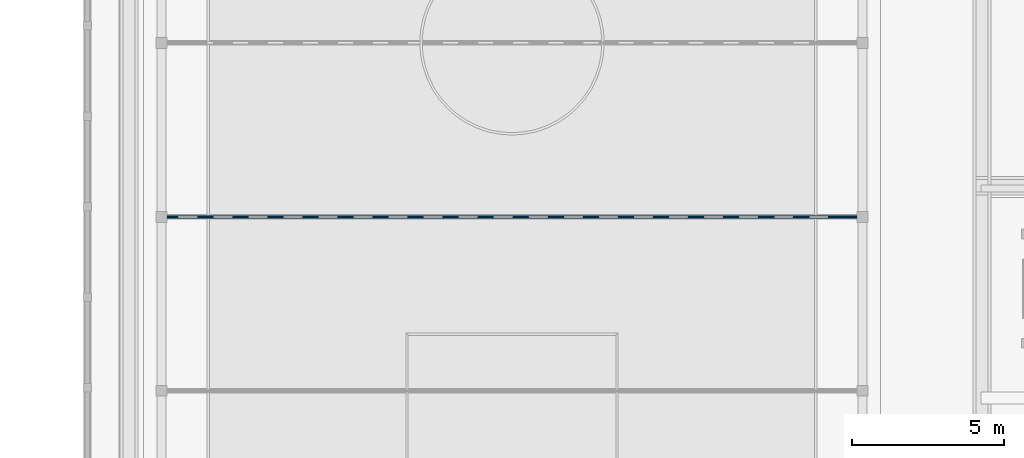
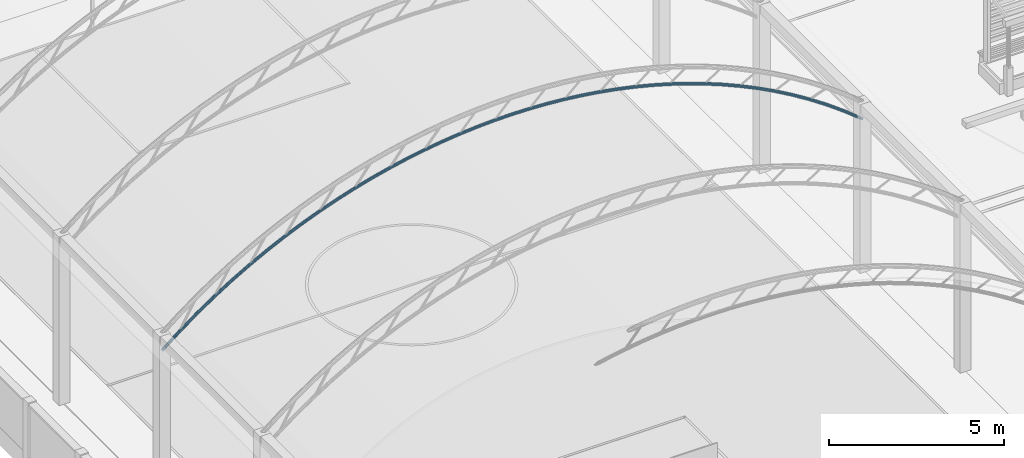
# One storey, part 24 of 177: 1 beam.
"""IFC4 building model written with IfcOpenShell, lengths in metres."""

from ifc_helpers import new_model, si_unit, origin, origin_with_axes, place, context, subcontext, project, spatial, triangles, element, save


model = new_model("IFC4")

# Units and contexts
model_context = context("Model", 3, precision=1e-05, world=origin_with_axes())
body_context = subcontext(model_context, "Body", "Model", "MODEL_VIEW")
ifc_project = project(units=[si_unit("LENGTHUNIT", "METRE"), si_unit("AREAUNIT", "SQUARE_METRE"), si_unit("VOLUMEUNIT", "CUBIC_METRE"), si_unit("PLANEANGLEUNIT", "RADIAN")], contexts=[model_context])

# Site, building, storey
site_placement = place(None, origin_with_axes())
site = spatial("IfcSite", under=ifc_project, at=site_placement, Name="Predio Los Mangos - Morales, San Martín", CompositionType="ELEMENT")
building_placement = place(site_placement, origin())
building = spatial("IfcBuilding", under=site, at=building_placement, Name="Hogar de Refugio Temporal", CompositionType="ELEMENT")
storey_placement = place(building_placement, origin())
storey = spatial("IfcBuildingStorey", under=building, at=storey_placement, Name="NIVEL 1 (NPT +0.00)", CompositionType="ELEMENT", Elevation=0.0)

# Beam
beam_placement = place(storey_placement, origin())
element("IfcBeam", 1, at=beam_placement, inside=storey, Name="arco", ObjectType="Viga", PredefinedType="BEAM", context=body_context, shape_type="Tessellation", body=[
    triangles([(3.4843, 104.11, 5.3695), (3.4729, 104.0917, 5.3838), (3.4687, 104.0667, 5.389), (3.4729, 104.0417, 5.3838), (3.4843, 104.0234, 5.3695), (3.5, 104.0167, 5.35), (3.5157, 104.0234, 5.3305), (3.5271, 104.0417, 5.3162), (3.5313, 104.0667, 5.311), (3.5271, 104.0917, 5.3162), (3.5157, 104.11, 5.3305), (3.5, 104.1167, 5.35), (4.0622, 104.11, 5.8339), (4.0511, 104.0917, 5.8484), (4.047, 104.0667, 5.8537), (4.0511, 104.0417, 5.8484), (4.0622, 104.0234, 5.8339), (4.0775, 104.0167, 5.8141), (4.0928, 104.0234, 5.7943), (4.1039, 104.0417, 5.7798), (4.108, 104.0667, 5.7745), (4.1039, 104.0917, 5.7798), (4.0928, 104.11, 5.7943), (4.0775, 104.1167, 5.8141), (4.6405, 104.11, 6.2612), (4.63, 104.0917, 6.2761), (4.6261, 104.0667, 6.2816), (4.63, 104.0417, 6.2761), (4.6405, 104.0234, 6.2612), (4.655, 104.0167, 6.2408), (4.6695, 104.0234, 6.2204), (4.68, 104.0417, 6.2055), (4.6839, 104.0667, 6.2), (4.68, 104.0917, 6.2055), (4.6695, 104.11, 6.2204), (4.655, 104.1167, 6.2408), (5.2188, 104.11, 6.6543), (5.2088, 104.0917, 6.6696), (5.2052, 104.0667, 6.6752), (5.2088, 104.0417, 6.6696), (5.2188, 104.0234, 6.6543), (5.2325, 104.0167, 6.6333), (5.2462, 104.0234, 6.6124), (5.2562, 104.0417, 6.5971), (5.2598, 104.0667, 6.5915), (5.2562, 104.0917, 6.5971), (5.2462, 104.11, 6.6124), (5.2325, 104.1167, 6.6333), (5.7971, 104.11, 7.0157), (5.7877, 104.0917, 7.0314), (5.7843, 104.0667, 7.0372), (5.7877, 104.0417, 7.0314), (5.7971, 104.0234, 7.0157), (5.81, 104.0167, 6.9943), (5.8229, 104.0234, 6.9729), (5.8323, 104.0417, 6.9572), (5.8357, 104.0667, 6.9514), (5.8323, 104.0917, 6.9572), (5.8229, 104.11, 6.9729), (5.81, 104.1167, 6.9943), (6.3755, 104.11, 7.3478), (6.3666, 104.0917, 7.3638), (6.3634, 104.0667, 7.3697), (6.3666, 104.0417, 7.3638), (6.3755, 104.0234, 7.3478), (6.3875, 104.0167, 7.3259), (6.3995, 104.0234, 7.304), (6.4084, 104.0417, 7.2879), (6.4116, 104.0667, 7.282), (6.4084, 104.0917, 7.2879), (6.3995, 104.11, 7.304), (6.3875, 104.1167, 7.3259), (6.9538, 104.11, 7.6522), (6.9455, 104.0917, 7.6685), (6.9425, 104.0667, 7.6745), (6.9455, 104.0417, 7.6685), (6.9538, 104.0234, 7.6522), (6.965, 104.0167, 7.6298), (6.9762, 104.0234, 7.6075), (6.9845, 104.0417, 7.5912), (6.9875, 104.0667, 7.5852), (6.9845, 104.0917, 7.5912), (6.9762, 104.11, 7.6075), (6.965, 104.1167, 7.6298), (7.5321, 104.11, 7.9305), (7.5244, 104.0917, 7.9471), (7.5216, 104.0667, 7.9532), (7.5244, 104.0417, 7.9471), (7.5321, 104.0234, 7.9305), (7.5425, 104.0167, 7.9077), (7.5529, 104.0234, 7.885), (7.5606, 104.0417, 7.8684), (7.5634, 104.0667, 7.8623), (7.5606, 104.0917, 7.8684), (7.5529, 104.11, 7.885), (7.5425, 104.1167, 7.9077), (8.1104, 104.11, 8.184), (8.1033, 104.0917, 8.2009), (8.1007, 104.0667, 8.2071), (8.1033, 104.0417, 8.2009), (8.1104, 104.0234, 8.184), (8.12, 104.0167, 8.1609), (8.1296, 104.0234, 8.1379), (8.1367, 104.0417, 8.121), (8.1393, 104.0667, 8.1148), (8.1367, 104.0917, 8.121), (8.1296, 104.11, 8.1379), (8.12, 104.1167, 8.1609), (8.6887, 104.11, 8.4139), (8.6822, 104.0917, 8.431), (8.6798, 104.0667, 8.4373), (8.6822, 104.0417, 8.431), (8.6887, 104.0234, 8.4139), (8.6975, 104.0167, 8.3905), (8.7063, 104.0234, 8.3671), (8.7128, 104.0417, 8.35), (8.7152, 104.0667, 8.3437), (8.7128, 104.0917, 8.35), (8.7063, 104.11, 8.3671), (8.6975, 104.1167, 8.3905), (9.267, 104.11, 8.6211), (9.2611, 104.0917, 8.6384), (9.2589, 104.0667, 8.6447), (9.2611, 104.0417, 8.6384), (9.267, 104.0234, 8.6211), (9.275, 104.0167, 8.5974), (9.283, 104.0234, 8.5737), (9.2889, 104.0417, 8.5564), (9.2911, 104.0667, 8.55), (9.2889, 104.0917, 8.5564), (9.283, 104.11, 8.5737), (9.275, 104.1167, 8.5974), (9.8453, 104.11, 8.8064), (9.84, 104.0917, 8.8239), (9.838, 104.0667, 8.8303), (9.84, 104.0417, 8.8239), (9.8453, 104.0234, 8.8064), (9.8525, 104.0167, 8.7824), (9.8597, 104.0234, 8.7585), (9.865, 104.0417, 8.741), (9.867, 104.0667, 8.7346), (9.865, 104.0917, 8.741), (9.8597, 104.11, 8.7585), (9.8525, 104.1167, 8.7824), (10.4236, 104.11, 8.9705), (10.4189, 104.0917, 8.9882), (10.4172, 104.0667, 8.9947), (10.4189, 104.0417, 8.9882), (10.4236, 104.0234, 8.9705), (10.43, 104.0167, 8.9463), (10.4364, 104.0234, 8.9222), (10.4411, 104.0417, 8.9045), (10.4429, 104.0667, 8.898), (10.4411, 104.0917, 8.9045), (10.4364, 104.11, 8.9222), (10.43, 104.1167, 8.9463), (11.0019, 104.11, 9.1141), (10.9978, 104.0917, 9.1319), (10.9963, 104.0667, 9.1384), (10.9978, 104.0417, 9.1319), (11.0019, 104.0234, 9.1141), (11.0075, 104.0167, 9.0897), (11.0131, 104.0234, 9.0653), (11.0172, 104.0417, 9.0475), (11.0187, 104.0667, 9.041), (11.0172, 104.0917, 9.0475), (11.0131, 104.11, 9.0653), (11.0075, 104.1167, 9.0897), (11.5802, 104.11, 9.2375), (11.5767, 104.0917, 9.2555), (11.5754, 104.0667, 9.2621), (11.5767, 104.0417, 9.2555), (11.5802, 104.0234, 9.2375), (11.585, 104.0167, 9.213), (11.5898, 104.0234, 9.1885), (11.5933, 104.0417, 9.1705), (11.5946, 104.0667, 9.1639), (11.5933, 104.0917, 9.1705), (11.5898, 104.11, 9.1885), (11.585, 104.1167, 9.213), (12.1585, 104.11, 9.3413), (12.1555, 104.0917, 9.3594), (12.1545, 104.0667, 9.366), (12.1555, 104.0417, 9.3594), (12.1585, 104.0234, 9.3413), (12.1625, 104.0167, 9.3166), (12.1665, 104.0234, 9.292), (12.1695, 104.0417, 9.2739), (12.1705, 104.0667, 9.2673), (12.1695, 104.0917, 9.2739), (12.1665, 104.11, 9.292), (12.1625, 104.1167, 9.3166), (12.7368, 104.11, 9.4258), (12.7344, 104.0917, 9.4439), (12.7336, 104.0667, 9.4506), (12.7344, 104.0417, 9.4439), (12.7368, 104.0234, 9.4258), (12.74, 104.0167, 9.401), (12.7432, 104.0234, 9.3762), (12.7456, 104.0417, 9.3581), (12.7464, 104.0667, 9.3514), (12.7456, 104.0917, 9.3581), (12.7432, 104.11, 9.3762), (12.74, 104.1167, 9.401), (13.3151, 104.11, 9.4912), (13.3133, 104.0917, 9.5094), (13.3127, 104.0667, 9.5161), (13.3133, 104.0417, 9.5094), (13.3151, 104.0234, 9.4912), (13.3175, 104.0167, 9.4663), (13.3199, 104.0234, 9.4415), (13.3217, 104.0417, 9.4232), (13.3223, 104.0667, 9.4166), (13.3217, 104.0917, 9.4232), (13.3199, 104.11, 9.4415), (13.3175, 104.1167, 9.4663), (13.8934, 104.11, 9.5378), (13.8922, 104.0917, 9.5561), (13.8918, 104.0667, 9.5628), (13.8922, 104.0417, 9.5561), (13.8934, 104.0234, 9.5378), (13.895, 104.0167, 9.5129), (13.8966, 104.0234, 9.4879), (13.8978, 104.0417, 9.4697), (13.8982, 104.0667, 9.463), (13.8978, 104.0917, 9.4697), (13.8966, 104.11, 9.4879), (13.895, 104.1167, 9.5129), (14.4717, 104.11, 9.5657), (14.4711, 104.0917, 9.584), (14.4709, 104.0667, 9.5907), (14.4711, 104.0417, 9.584), (14.4717, 104.0234, 9.5657), (14.4725, 104.0167, 9.5407), (14.4733, 104.0234, 9.5157), (14.4739, 104.0417, 9.4974), (14.4741, 104.0667, 9.4907), (14.4739, 104.0917, 9.4974), (14.4733, 104.11, 9.5157), (14.4725, 104.1167, 9.5407), (15.05, 104.11, 9.575), (15.05, 104.0917, 9.5933), (15.05, 104.0667, 9.6), (15.05, 104.0417, 9.5933), (15.05, 104.0234, 9.575), (15.05, 104.0167, 9.55), (15.05, 104.0234, 9.525), (15.05, 104.0417, 9.5067), (15.05, 104.0667, 9.5), (15.05, 104.0917, 9.5067), (15.05, 104.11, 9.525), (15.05, 104.1167, 9.55), (15.6283, 104.11, 9.5657), (15.6289, 104.0917, 9.584), (15.6291, 104.0667, 9.5907), (15.6289, 104.0417, 9.584), (15.6283, 104.0234, 9.5657), (15.6275, 104.0167, 9.5407), (15.6267, 104.0234, 9.5157), (15.6261, 104.0417, 9.4974), (15.6259, 104.0667, 9.4907), (15.6261, 104.0917, 9.4974), (15.6267, 104.11, 9.5157), (15.6275, 104.1167, 9.5407), (16.2066, 104.11, 9.5378), (16.2078, 104.0917, 9.5561), (16.2082, 104.0667, 9.5628), (16.2078, 104.0417, 9.5561), (16.2066, 104.0234, 9.5378), (16.205, 104.0167, 9.5129), (16.2034, 104.0234, 9.4879), (16.2022, 104.0417, 9.4697), (16.2018, 104.0667, 9.463), (16.2022, 104.0917, 9.4697), (16.2034, 104.11, 9.4879), (16.205, 104.1167, 9.5129), (16.7849, 104.11, 9.4912), (16.7867, 104.0917, 9.5094), (16.7873, 104.0667, 9.5161), (16.7867, 104.0417, 9.5094), (16.7849, 104.0234, 9.4912), (16.7825, 104.0167, 9.4663), (16.7801, 104.0234, 9.4415), (16.7783, 104.0417, 9.4232), (16.7777, 104.0667, 9.4166), (16.7783, 104.0917, 9.4232), (16.7801, 104.11, 9.4415), (16.7825, 104.1167, 9.4663), (17.3632, 104.11, 9.4258), (17.3656, 104.0917, 9.4439), (17.3664, 104.0667, 9.4506), (17.3656, 104.0417, 9.4439), (17.3632, 104.0234, 9.4258), (17.36, 104.0167, 9.401), (17.3568, 104.0234, 9.3762), (17.3544, 104.0417, 9.3581), (17.3536, 104.0667, 9.3514), (17.3544, 104.0917, 9.3581), (17.3568, 104.11, 9.3762), (17.36, 104.1167, 9.401), (17.9415, 104.11, 9.3413), (17.9445, 104.0917, 9.3594), (17.9455, 104.0667, 9.366), (17.9445, 104.0417, 9.3594), (17.9415, 104.0234, 9.3413), (17.9375, 104.0167, 9.3166), (17.9335, 104.0234, 9.292), (17.9305, 104.0417, 9.2739), (17.9295, 104.0667, 9.2673), (17.9305, 104.0917, 9.2739), (17.9335, 104.11, 9.292), (17.9375, 104.1167, 9.3166), (18.5198, 104.11, 9.2375), (18.5233, 104.0917, 9.2555), (18.5246, 104.0667, 9.2621), (18.5233, 104.0417, 9.2555), (18.5198, 104.0234, 9.2375), (18.515, 104.0167, 9.213), (18.5102, 104.0234, 9.1885), (18.5067, 104.0417, 9.1705), (18.5054, 104.0667, 9.1639), (18.5067, 104.0917, 9.1705), (18.5102, 104.11, 9.1885), (18.515, 104.1167, 9.213), (19.0981, 104.11, 9.1141), (19.1022, 104.0917, 9.1319), (19.1037, 104.0667, 9.1384), (19.1022, 104.0417, 9.1319), (19.0981, 104.0234, 9.1141), (19.0925, 104.0167, 9.0897), (19.0869, 104.0234, 9.0653), (19.0828, 104.0417, 9.0475), (19.0813, 104.0667, 9.041), (19.0828, 104.0917, 9.0475), (19.0869, 104.11, 9.0653), (19.0925, 104.1167, 9.0897), (19.6764, 104.11, 8.9705), (19.6811, 104.0917, 8.9882), (19.6828, 104.0667, 8.9947), (19.6811, 104.0417, 8.9882), (19.6764, 104.0234, 8.9705), (19.67, 104.0167, 8.9463), (19.6636, 104.0234, 8.9222), (19.6589, 104.0417, 8.9045), (19.6572, 104.0667, 8.898), (19.6589, 104.0917, 8.9045), (19.6636, 104.11, 8.9222), (19.67, 104.1167, 8.9463), (20.2547, 104.11, 8.8064), (20.26, 104.0917, 8.8239), (20.262, 104.0667, 8.8303), (20.26, 104.0417, 8.8239), (20.2547, 104.0234, 8.8064), (20.2475, 104.0167, 8.7824), (20.2403, 104.0234, 8.7585), (20.235, 104.0417, 8.741), (20.233, 104.0667, 8.7346), (20.235, 104.0917, 8.741), (20.2403, 104.11, 8.7585), (20.2475, 104.1167, 8.7824), (20.833, 104.11, 8.6211), (20.8389, 104.0917, 8.6384), (20.8411, 104.0667, 8.6447), (20.8389, 104.0417, 8.6384), (20.833, 104.0234, 8.6211), (20.825, 104.0167, 8.5974), (20.817, 104.0234, 8.5737), (20.8111, 104.0417, 8.5564), (20.8089, 104.0667, 8.55), (20.8111, 104.0917, 8.5564), (20.817, 104.11, 8.5737), (20.825, 104.1167, 8.5974), (21.4113, 104.11, 8.4139), (21.4178, 104.0917, 8.431), (21.4202, 104.0667, 8.4373), (21.4178, 104.0417, 8.431), (21.4113, 104.0234, 8.4139), (21.4025, 104.0167, 8.3905), (21.3937, 104.0234, 8.3671), (21.3872, 104.0417, 8.35), (21.3848, 104.0667, 8.3437), (21.3872, 104.0917, 8.35), (21.3937, 104.11, 8.3671), (21.4025, 104.1167, 8.3905), (21.9896, 104.11, 8.184), (21.9967, 104.0917, 8.2009), (21.9993, 104.0667, 8.2071), (21.9967, 104.0417, 8.2009), (21.9896, 104.0234, 8.184), (21.98, 104.0167, 8.1609), (21.9704, 104.0234, 8.1379), (21.9633, 104.0417, 8.121), (21.9607, 104.0667, 8.1148), (21.9633, 104.0917, 8.121), (21.9704, 104.11, 8.1379), (21.98, 104.1167, 8.1609), (22.5679, 104.11, 7.9305), (22.5756, 104.0917, 7.9471), (22.5784, 104.0667, 7.9532), (22.5756, 104.0417, 7.9471), (22.5679, 104.0234, 7.9305), (22.5575, 104.0167, 7.9077), (22.5471, 104.0234, 7.885), (22.5394, 104.0417, 7.8684), (22.5366, 104.0667, 7.8623), (22.5394, 104.0917, 7.8684), (22.5471, 104.11, 7.885), (22.5575, 104.1167, 7.9077), (23.1462, 104.11, 7.6522), (23.1545, 104.0917, 7.6685), (23.1575, 104.0667, 7.6745), (23.1545, 104.0417, 7.6685), (23.1462, 104.0234, 7.6522), (23.135, 104.0167, 7.6298), (23.1238, 104.0234, 7.6075), (23.1155, 104.0417, 7.5912), (23.1125, 104.0667, 7.5852), (23.1155, 104.0917, 7.5912), (23.1238, 104.11, 7.6075), (23.135, 104.1167, 7.6298), (23.7245, 104.11, 7.3478), (23.7334, 104.0917, 7.3638), (23.7366, 104.0667, 7.3697), (23.7334, 104.0417, 7.3638), (23.7245, 104.0234, 7.3478), (23.7125, 104.0167, 7.3259), (23.7005, 104.0234, 7.304), (23.6916, 104.0417, 7.2879), (23.6884, 104.0667, 7.282), (23.6916, 104.0917, 7.2879), (23.7005, 104.11, 7.304), (23.7125, 104.1167, 7.3259), (24.3029, 104.11, 7.0157), (24.3123, 104.0917, 7.0314), (24.3157, 104.0667, 7.0372), (24.3123, 104.0417, 7.0314), (24.3029, 104.0234, 7.0157), (24.29, 104.0167, 6.9943), (24.2771, 104.0234, 6.9729), (24.2677, 104.0417, 6.9572), (24.2643, 104.0667, 6.9514), (24.2677, 104.0917, 6.9572), (24.2771, 104.11, 6.9729), (24.29, 104.1167, 6.9943), (24.8812, 104.11, 6.6543), (24.8912, 104.0917, 6.6696), (24.8948, 104.0667, 6.6752), (24.8912, 104.0417, 6.6696), (24.8812, 104.0234, 6.6543), (24.8675, 104.0167, 6.6333), (24.8538, 104.0234, 6.6124), (24.8438, 104.0417, 6.5971), (24.8402, 104.0667, 6.5915), (24.8438, 104.0917, 6.5971), (24.8538, 104.11, 6.6124), (24.8675, 104.1167, 6.6333), (25.4595, 104.11, 6.2612), (25.47, 104.0917, 6.2761), (25.4739, 104.0667, 6.2816), (25.47, 104.0417, 6.2761), (25.4595, 104.0234, 6.2612), (25.445, 104.0167, 6.2408), (25.4305, 104.0234, 6.2204), (25.42, 104.0417, 6.2055), (25.4161, 104.0667, 6.2), (25.42, 104.0917, 6.2055), (25.4305, 104.11, 6.2204), (25.445, 104.1167, 6.2408), (26.0378, 104.11, 5.8339), (26.0489, 104.0917, 5.8484), (26.053, 104.0667, 5.8537), (26.0489, 104.0417, 5.8484), (26.0378, 104.0234, 5.8339), (26.0225, 104.0167, 5.8141), (26.0072, 104.0234, 5.7943), (25.9961, 104.0417, 5.7798), (25.992, 104.0667, 5.7745), (25.9961, 104.0917, 5.7798), (26.0072, 104.11, 5.7943), (26.0225, 104.1167, 5.8141), (26.6157, 104.11, 5.3695), (26.6271, 104.0917, 5.3838), (26.6313, 104.0667, 5.389), (26.6271, 104.0417, 5.3838), (26.6157, 104.0234, 5.3695), (26.6, 104.0167, 5.35), (26.5843, 104.0234, 5.3305), (26.5729, 104.0417, 5.3162), (26.5687, 104.0667, 5.311), (26.5729, 104.0917, 5.3162), (26.5843, 104.11, 5.3305), (26.6, 104.1167, 5.35)], [[1, 13, 24], [1, 24, 12], [2, 14, 13], [2, 13, 1], [3, 15, 14], [3, 14, 2], [4, 16, 15], [4, 15, 3], [5, 17, 16], [5, 16, 4], [6, 18, 17], [6, 17, 5], [7, 19, 18], [7, 18, 6], [8, 20, 19], [8, 19, 7], [9, 21, 20], [9, 20, 8], [10, 22, 21], [10, 21, 9], [11, 23, 22], [11, 22, 10], [12, 24, 23], [12, 23, 11], [13, 25, 36], [13, 36, 24], [14, 26, 25], [14, 25, 13], [15, 27, 26], [15, 26, 14], [16, 28, 27], [16, 27, 15], [17, 29, 28], [17, 28, 16], [18, 30, 29], [18, 29, 17], [19, 31, 30], [19, 30, 18], [20, 32, 31], [20, 31, 19], [21, 33, 32], [21, 32, 20], [22, 34, 33], [22, 33, 21], [23, 35, 34], [23, 34, 22], [24, 36, 35], [24, 35, 23], [25, 37, 48], [25, 48, 36], [26, 38, 37], [26, 37, 25], [27, 39, 38], [27, 38, 26], [28, 40, 39], [28, 39, 27], [29, 41, 40], [29, 40, 28], [30, 42, 41], [30, 41, 29], [31, 43, 42], [31, 42, 30], [32, 44, 43], [32, 43, 31], [33, 45, 44], [33, 44, 32], [34, 46, 45], [34, 45, 33], [35, 47, 46], [35, 46, 34], [36, 48, 47], [36, 47, 35], [37, 49, 60], [37, 60, 48], [38, 50, 49], [38, 49, 37], [39, 51, 50], [39, 50, 38], [40, 52, 51], [40, 51, 39], [41, 53, 52], [41, 52, 40], [42, 54, 53], [42, 53, 41], [43, 55, 54], [43, 54, 42], [44, 56, 55], [44, 55, 43], [45, 57, 56], [45, 56, 44], [46, 58, 57], [46, 57, 45], [47, 59, 58], [47, 58, 46], [48, 60, 59], [48, 59, 47], [49, 61, 72], [49, 72, 60], [50, 62, 61], [50, 61, 49], [51, 63, 62], [51, 62, 50], [52, 64, 63], [52, 63, 51], [53, 65, 64], [53, 64, 52], [54, 66, 65], [54, 65, 53], [55, 67, 66], [55, 66, 54], [56, 68, 67], [56, 67, 55], [57, 69, 68], [57, 68, 56], [58, 70, 69], [58, 69, 57], [59, 71, 70], [59, 70, 58], [60, 72, 71], [60, 71, 59], [61, 73, 84], [61, 84, 72], [62, 74, 73], [62, 73, 61], [63, 75, 74], [63, 74, 62], [64, 76, 75], [64, 75, 63], [65, 77, 76], [65, 76, 64], [66, 78, 77], [66, 77, 65], [67, 79, 78], [67, 78, 66], [68, 80, 79], [68, 79, 67], [69, 81, 80], [69, 80, 68], [70, 82, 81], [70, 81, 69], [71, 83, 82], [71, 82, 70], [72, 84, 83], [72, 83, 71], [73, 85, 96], [73, 96, 84], [74, 86, 85], [74, 85, 73], [75, 87, 86], [75, 86, 74], [76, 88, 87], [76, 87, 75], [77, 89, 88], [77, 88, 76], [78, 90, 89], [78, 89, 77], [79, 91, 90], [79, 90, 78], [80, 92, 91], [80, 91, 79], [81, 93, 92], [81, 92, 80], [82, 94, 93], [82, 93, 81], [83, 95, 94], [83, 94, 82], [84, 96, 95], [84, 95, 83], [85, 97, 108], [85, 108, 96], [86, 98, 97], [86, 97, 85], [87, 99, 98], [87, 98, 86], [88, 100, 99], [88, 99, 87], [89, 101, 100], [89, 100, 88], [90, 102, 101], [90, 101, 89], [91, 103, 102], [91, 102, 90], [92, 104, 103], [92, 103, 91], [93, 105, 104], [93, 104, 92], [94, 106, 105], [94, 105, 93], [95, 107, 106], [95, 106, 94], [96, 108, 107], [96, 107, 95], [97, 109, 120], [97, 120, 108], [98, 110, 109], [98, 109, 97], [99, 111, 110], [99, 110, 98], [100, 112, 111], [100, 111, 99], [101, 113, 112], [101, 112, 100], [102, 114, 113], [102, 113, 101], [103, 115, 114], [103, 114, 102], [104, 116, 115], [104, 115, 103], [105, 117, 116], [105, 116, 104], [106, 118, 117], [106, 117, 105], [107, 119, 118], [107, 118, 106], [108, 120, 119], [108, 119, 107], [109, 121, 132], [109, 132, 120], [110, 122, 121], [110, 121, 109], [111, 123, 122], [111, 122, 110], [112, 124, 123], [112, 123, 111], [113, 125, 124], [113, 124, 112], [114, 126, 125], [114, 125, 113], [115, 127, 126], [115, 126, 114], [116, 128, 127], [116, 127, 115], [117, 129, 128], [117, 128, 116], [118, 130, 129], [118, 129, 117], [119, 131, 130], [119, 130, 118], [120, 132, 131], [120, 131, 119], [121, 133, 144], [121, 144, 132], [122, 134, 133], [122, 133, 121], [123, 135, 134], [123, 134, 122], [124, 136, 135], [124, 135, 123], [125, 137, 136], [125, 136, 124], [126, 138, 137], [126, 137, 125], [127, 139, 138], [127, 138, 126], [128, 140, 139], [128, 139, 127], [129, 141, 140], [129, 140, 128], [130, 142, 141], [130, 141, 129], [131, 143, 142], [131, 142, 130], [132, 144, 143], [132, 143, 131], [133, 145, 156], [133, 156, 144], [134, 146, 145], [134, 145, 133], [135, 147, 146], [135, 146, 134], [136, 148, 147], [136, 147, 135], [137, 149, 148], [137, 148, 136], [138, 150, 149], [138, 149, 137], [139, 151, 150], [139, 150, 138], [140, 152, 151], [140, 151, 139], [141, 153, 152], [141, 152, 140], [142, 154, 153], [142, 153, 141], [143, 155, 154], [143, 154, 142], [144, 156, 155], [144, 155, 143], [145, 157, 168], [145, 168, 156], [146, 158, 157], [146, 157, 145], [147, 159, 158], [147, 158, 146], [148, 160, 159], [148, 159, 147], [149, 161, 160], [149, 160, 148], [150, 162, 161], [150, 161, 149], [151, 163, 162], [151, 162, 150], [152, 164, 163], [152, 163, 151], [153, 165, 164], [153, 164, 152], [154, 166, 165], [154, 165, 153], [155, 167, 166], [155, 166, 154], [156, 168, 167], [156, 167, 155], [157, 169, 180], [157, 180, 168], [158, 170, 169], [158, 169, 157], [159, 171, 170], [159, 170, 158], [160, 172, 171], [160, 171, 159], [161, 173, 172], [161, 172, 160], [162, 174, 173], [162, 173, 161], [163, 175, 174], [163, 174, 162], [164, 176, 175], [164, 175, 163], [165, 177, 176], [165, 176, 164], [166, 178, 177], [166, 177, 165], [167, 179, 178], [167, 178, 166], [168, 180, 179], [168, 179, 167], [169, 181, 192], [169, 192, 180], [170, 182, 181], [170, 181, 169], [171, 183, 182], [171, 182, 170], [172, 184, 183], [172, 183, 171], [173, 185, 184], [173, 184, 172], [174, 186, 185], [174, 185, 173], [175, 187, 186], [175, 186, 174], [176, 188, 187], [176, 187, 175], [177, 189, 188], [177, 188, 176], [178, 190, 189], [178, 189, 177], [179, 191, 190], [179, 190, 178], [180, 192, 191], [180, 191, 179], [181, 193, 204], [181, 204, 192], [182, 194, 193], [182, 193, 181], [183, 195, 194], [183, 194, 182], [184, 196, 195], [184, 195, 183], [185, 197, 196], [185, 196, 184], [186, 198, 197], [186, 197, 185], [187, 199, 198], [187, 198, 186], [188, 200, 199], [188, 199, 187], [189, 201, 200], [189, 200, 188], [190, 202, 201], [190, 201, 189], [191, 203, 202], [191, 202, 190], [192, 204, 203], [192, 203, 191], [193, 205, 216], [193, 216, 204], [194, 206, 205], [194, 205, 193], [195, 207, 206], [195, 206, 194], [196, 208, 207], [196, 207, 195], [197, 209, 208], [197, 208, 196], [198, 210, 209], [198, 209, 197], [199, 211, 210], [199, 210, 198], [200, 212, 211], [200, 211, 199], [201, 213, 212], [201, 212, 200], [202, 214, 213], [202, 213, 201], [203, 215, 214], [203, 214, 202], [204, 216, 215], [204, 215, 203], [205, 217, 228], [205, 228, 216], [206, 218, 217], [206, 217, 205], [207, 219, 218], [207, 218, 206], [208, 220, 219], [208, 219, 207], [209, 221, 220], [209, 220, 208], [210, 222, 221], [210, 221, 209], [211, 223, 222], [211, 222, 210], [212, 224, 223], [212, 223, 211], [213, 225, 224], [213, 224, 212], [214, 226, 225], [214, 225, 213], [215, 227, 226], [215, 226, 214], [216, 228, 227], [216, 227, 215], [217, 229, 240], [217, 240, 228], [218, 230, 229], [218, 229, 217], [219, 231, 230], [219, 230, 218], [220, 232, 231], [220, 231, 219], [221, 233, 232], [221, 232, 220], [222, 234, 233], [222, 233, 221], [223, 235, 234], [223, 234, 222], [224, 236, 235], [224, 235, 223], [225, 237, 236], [225, 236, 224], [226, 238, 237], [226, 237, 225], [227, 239, 238], [227, 238, 226], [228, 240, 239], [228, 239, 227], [229, 241, 252], [229, 252, 240], [230, 242, 241], [230, 241, 229], [231, 243, 242], [231, 242, 230], [232, 244, 243], [232, 243, 231], [233, 245, 244], [233, 244, 232], [234, 246, 245], [234, 245, 233], [235, 247, 246], [235, 246, 234], [236, 248, 247], [236, 247, 235], [237, 249, 248], [237, 248, 236], [238, 250, 249], [238, 249, 237], [239, 251, 250], [239, 250, 238], [240, 252, 251], [240, 251, 239], [241, 253, 264], [241, 264, 252], [242, 254, 253], [242, 253, 241], [243, 255, 254], [243, 254, 242], [244, 256, 255], [244, 255, 243], [245, 257, 256], [245, 256, 244], [246, 258, 257], [246, 257, 245], [247, 259, 258], [247, 258, 246], [248, 260, 259], [248, 259, 247], [249, 261, 260], [249, 260, 248], [250, 262, 261], [250, 261, 249], [251, 263, 262], [251, 262, 250], [252, 264, 263], [252, 263, 251], [253, 265, 276], [253, 276, 264], [254, 266, 265], [254, 265, 253], [255, 267, 266], [255, 266, 254], [256, 268, 267], [256, 267, 255], [257, 269, 268], [257, 268, 256], [258, 270, 269], [258, 269, 257], [259, 271, 270], [259, 270, 258], [260, 272, 271], [260, 271, 259], [261, 273, 272], [261, 272, 260], [262, 274, 273], [262, 273, 261], [263, 275, 274], [263, 274, 262], [264, 276, 275], [264, 275, 263], [265, 277, 288], [265, 288, 276], [266, 278, 277], [266, 277, 265], [267, 279, 278], [267, 278, 266], [268, 280, 279], [268, 279, 267], [269, 281, 280], [269, 280, 268], [270, 282, 281], [270, 281, 269], [271, 283, 282], [271, 282, 270], [272, 284, 283], [272, 283, 271], [273, 285, 284], [273, 284, 272], [274, 286, 285], [274, 285, 273], [275, 287, 286], [275, 286, 274], [276, 288, 287], [276, 287, 275], [277, 289, 300], [277, 300, 288], [278, 290, 289], [278, 289, 277], [279, 291, 290], [279, 290, 278], [280, 292, 291], [280, 291, 279], [281, 293, 292], [281, 292, 280], [282, 294, 293], [282, 293, 281], [283, 295, 294], [283, 294, 282], [284, 296, 295], [284, 295, 283], [285, 297, 296], [285, 296, 284], [286, 298, 297], [286, 297, 285], [287, 299, 298], [287, 298, 286], [288, 300, 299], [288, 299, 287], [289, 301, 312], [289, 312, 300], [290, 302, 301], [290, 301, 289], [291, 303, 302], [291, 302, 290], [292, 304, 303], [292, 303, 291], [293, 305, 304], [293, 304, 292], [294, 306, 305], [294, 305, 293], [295, 307, 306], [295, 306, 294], [296, 308, 307], [296, 307, 295], [297, 309, 308], [297, 308, 296], [298, 310, 309], [298, 309, 297], [299, 311, 310], [299, 310, 298], [300, 312, 311], [300, 311, 299], [301, 313, 324], [301, 324, 312], [302, 314, 313], [302, 313, 301], [303, 315, 314], [303, 314, 302], [304, 316, 315], [304, 315, 303], [305, 317, 316], [305, 316, 304], [306, 318, 317], [306, 317, 305], [307, 319, 318], [307, 318, 306], [308, 320, 319], [308, 319, 307], [309, 321, 320], [309, 320, 308], [310, 322, 321], [310, 321, 309], [311, 323, 322], [311, 322, 310], [312, 324, 323], [312, 323, 311], [313, 325, 336], [313, 336, 324], [314, 326, 325], [314, 325, 313], [315, 327, 326], [315, 326, 314], [316, 328, 327], [316, 327, 315], [317, 329, 328], [317, 328, 316], [318, 330, 329], [318, 329, 317], [319, 331, 330], [319, 330, 318], [320, 332, 331], [320, 331, 319], [321, 333, 332], [321, 332, 320], [322, 334, 333], [322, 333, 321], [323, 335, 334], [323, 334, 322], [324, 336, 335], [324, 335, 323], [325, 337, 348], [325, 348, 336], [326, 338, 337], [326, 337, 325], [327, 339, 338], [327, 338, 326], [328, 340, 339], [328, 339, 327], [329, 341, 340], [329, 340, 328], [330, 342, 341], [330, 341, 329], [331, 343, 342], [331, 342, 330], [332, 344, 343], [332, 343, 331], [333, 345, 344], [333, 344, 332], [334, 346, 345], [334, 345, 333], [335, 347, 346], [335, 346, 334], [336, 348, 347], [336, 347, 335], [337, 349, 360], [337, 360, 348], [338, 350, 349], [338, 349, 337], [339, 351, 350], [339, 350, 338], [340, 352, 351], [340, 351, 339], [341, 353, 352], [341, 352, 340], [342, 354, 353], [342, 353, 341], [343, 355, 354], [343, 354, 342], [344, 356, 355], [344, 355, 343], [345, 357, 356], [345, 356, 344], [346, 358, 357], [346, 357, 345], [347, 359, 358], [347, 358, 346], [348, 360, 359], [348, 359, 347], [349, 361, 372], [349, 372, 360], [350, 362, 361], [350, 361, 349], [351, 363, 362], [351, 362, 350], [352, 364, 363], [352, 363, 351], [353, 365, 364], [353, 364, 352], [354, 366, 365], [354, 365, 353], [355, 367, 366], [355, 366, 354], [356, 368, 367], [356, 367, 355], [357, 369, 368], [357, 368, 356], [358, 370, 369], [358, 369, 357], [359, 371, 370], [359, 370, 358], [360, 372, 371], [360, 371, 359], [361, 373, 384], [361, 384, 372], [362, 374, 373], [362, 373, 361], [363, 375, 374], [363, 374, 362], [364, 376, 375], [364, 375, 363], [365, 377, 376], [365, 376, 364], [366, 378, 377], [366, 377, 365], [367, 379, 378], [367, 378, 366], [368, 380, 379], [368, 379, 367], [369, 381, 380], [369, 380, 368], [370, 382, 381], [370, 381, 369], [371, 383, 382], [371, 382, 370], [372, 384, 383], [372, 383, 371], [373, 385, 396], [373, 396, 384], [374, 386, 385], [374, 385, 373], [375, 387, 386], [375, 386, 374], [376, 388, 387], [376, 387, 375], [377, 389, 388], [377, 388, 376], [378, 390, 389], [378, 389, 377], [379, 391, 390], [379, 390, 378], [380, 392, 391], [380, 391, 379], [381, 393, 392], [381, 392, 380], [382, 394, 393], [382, 393, 381], [383, 395, 394], [383, 394, 382], [384, 396, 395], [384, 395, 383], [385, 397, 408], [385, 408, 396], [386, 398, 397], [386, 397, 385], [387, 399, 398], [387, 398, 386], [388, 400, 399], [388, 399, 387], [389, 401, 400], [389, 400, 388], [390, 402, 401], [390, 401, 389], [391, 403, 402], [391, 402, 390], [392, 404, 403], [392, 403, 391], [393, 405, 404], [393, 404, 392], [394, 406, 405], [394, 405, 393], [395, 407, 406], [395, 406, 394], [396, 408, 407], [396, 407, 395], [397, 409, 420], [397, 420, 408], [398, 410, 409], [398, 409, 397], [399, 411, 410], [399, 410, 398], [400, 412, 411], [400, 411, 399], [401, 413, 412], [401, 412, 400], [402, 414, 413], [402, 413, 401], [403, 415, 414], [403, 414, 402], [404, 416, 415], [404, 415, 403], [405, 417, 416], [405, 416, 404], [406, 418, 417], [406, 417, 405], [407, 419, 418], [407, 418, 406], [408, 420, 419], [408, 419, 407], [409, 421, 432], [409, 432, 420], [410, 422, 421], [410, 421, 409], [411, 423, 422], [411, 422, 410], [412, 424, 423], [412, 423, 411], [413, 425, 424], [413, 424, 412], [414, 426, 425], [414, 425, 413], [415, 427, 426], [415, 426, 414], [416, 428, 427], [416, 427, 415], [417, 429, 428], [417, 428, 416], [418, 430, 429], [418, 429, 417], [419, 431, 430], [419, 430, 418], [420, 432, 431], [420, 431, 419], [421, 433, 444], [421, 444, 432], [422, 434, 433], [422, 433, 421], [423, 435, 434], [423, 434, 422], [424, 436, 435], [424, 435, 423], [425, 437, 436], [425, 436, 424], [426, 438, 437], [426, 437, 425], [427, 439, 438], [427, 438, 426], [428, 440, 439], [428, 439, 427], [429, 441, 440], [429, 440, 428], [430, 442, 441], [430, 441, 429], [431, 443, 442], [431, 442, 430], [432, 444, 443], [432, 443, 431], [433, 445, 456], [433, 456, 444], [434, 446, 445], [434, 445, 433], [435, 447, 446], [435, 446, 434], [436, 448, 447], [436, 447, 435], [437, 449, 448], [437, 448, 436], [438, 450, 449], [438, 449, 437], [439, 451, 450], [439, 450, 438], [440, 452, 451], [440, 451, 439], [441, 453, 452], [441, 452, 440], [442, 454, 453], [442, 453, 441], [443, 455, 454], [443, 454, 442], [444, 456, 455], [444, 455, 443], [445, 457, 468], [445, 468, 456], [446, 458, 457], [446, 457, 445], [447, 459, 458], [447, 458, 446], [448, 460, 459], [448, 459, 447], [449, 461, 460], [449, 460, 448], [450, 462, 461], [450, 461, 449], [451, 463, 462], [451, 462, 450], [452, 464, 463], [452, 463, 451], [453, 465, 464], [453, 464, 452], [454, 466, 465], [454, 465, 453], [455, 467, 466], [455, 466, 454], [456, 468, 467], [456, 467, 455], [457, 469, 480], [457, 480, 468], [458, 470, 469], [458, 469, 457], [459, 471, 470], [459, 470, 458], [460, 472, 471], [460, 471, 459], [461, 473, 472], [461, 472, 460], [462, 474, 473], [462, 473, 461], [463, 475, 474], [463, 474, 462], [464, 476, 475], [464, 475, 463], [465, 477, 476], [465, 476, 464], [466, 478, 477], [466, 477, 465], [467, 479, 478], [467, 478, 466], [468, 480, 479], [468, 479, 467], [469, 481, 492], [469, 492, 480], [470, 482, 481], [470, 481, 469], [471, 483, 482], [471, 482, 470], [472, 484, 483], [472, 483, 471], [473, 485, 484], [473, 484, 472], [474, 486, 485], [474, 485, 473], [475, 487, 486], [475, 486, 474], [476, 488, 487], [476, 487, 475], [477, 489, 488], [477, 488, 476], [478, 490, 489], [478, 489, 477], [479, 491, 490], [479, 490, 478], [480, 492, 491], [480, 491, 479]]),
])

save(model, "model.ifc")
